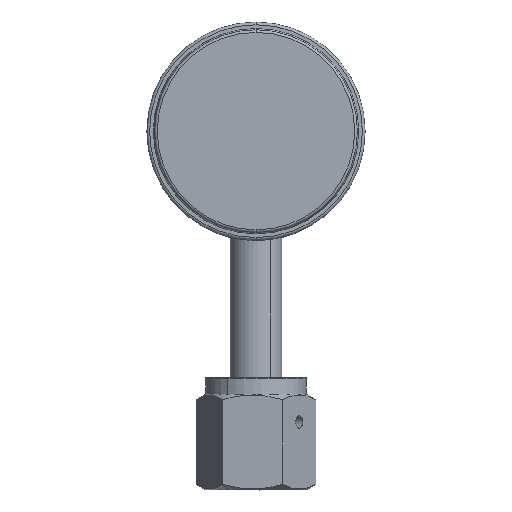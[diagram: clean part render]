
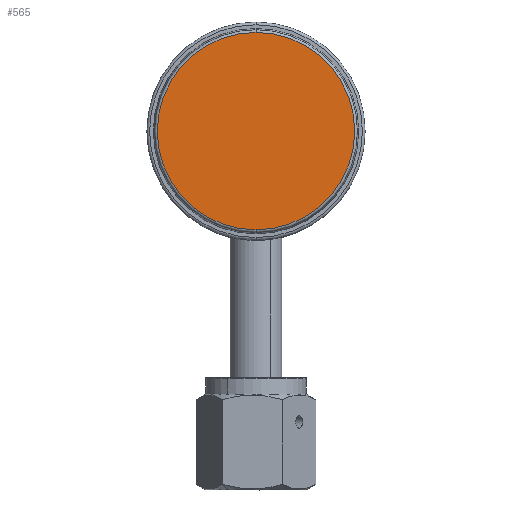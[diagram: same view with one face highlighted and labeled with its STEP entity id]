
A CAD part, top view. The second image highlights one B-rep face of the part: STEP entity #565.
In plain terms, the highlighted planar face has unit normal (0, 0, 1).
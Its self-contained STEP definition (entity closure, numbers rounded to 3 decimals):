
#26 = DIRECTION ( 'NONE',  ( 0., 0., -1. ) ) ;
#117 = PLANE ( 'NONE',  #1429 ) ;
#151 = DIRECTION ( 'NONE',  ( 0., 0., 1. ) ) ;
#337 = EDGE_CURVE ( 'NONE', #557, #2024, #981, .T. ) ;
#486 = AXIS2_PLACEMENT_3D ( 'NONE', #1362, #26, #2185 ) ;
#545 = CARTESIAN_POINT ( 'NONE',  ( 0., -18.088, 26.6 ) ) ;
#553 = DIRECTION ( 'NONE',  ( 0., 0., -1. ) ) ;
#557 = VERTEX_POINT ( 'NONE', #1630 ) ;
#565 = ADVANCED_FACE ( 'NONE', ( #2490 ), #117, .T. ) ;
#709 = DIRECTION ( 'NONE',  ( 0., -1., 0. ) ) ;
#749 = DIRECTION ( 'NONE',  ( 0., 1., 0. ) ) ;
#758 = ORIENTED_EDGE ( 'NONE', *, *, #337, .F. ) ;
#981 = CIRCLE ( 'NONE', #2486, 18.088 ) ;
#1010 = CIRCLE ( 'NONE', #486, 18.088 ) ;
#1175 = EDGE_CURVE ( 'NONE', #2024, #557, #1010, .T. ) ;
#1271 = EDGE_LOOP ( 'NONE', ( #758, #2040 ) ) ;
#1362 = CARTESIAN_POINT ( 'NONE',  ( 0., 0., 26.6 ) ) ;
#1429 = AXIS2_PLACEMENT_3D ( 'NONE', #2337, #151, #709 ) ;
#1630 = CARTESIAN_POINT ( 'NONE',  ( 0., 18.088, 26.6 ) ) ;
#2024 = VERTEX_POINT ( 'NONE', #545 ) ;
#2040 = ORIENTED_EDGE ( 'NONE', *, *, #1175, .F. ) ;
#2185 = DIRECTION ( 'NONE',  ( 0., 1., 0. ) ) ;
#2337 = CARTESIAN_POINT ( 'NONE',  ( 0., 18.088, 26.6 ) ) ;
#2367 = CARTESIAN_POINT ( 'NONE',  ( 0., 0., 26.6 ) ) ;
#2486 = AXIS2_PLACEMENT_3D ( 'NONE', #2367, #553, #749 ) ;
#2490 = FACE_OUTER_BOUND ( 'NONE', #1271, .T. ) ;
